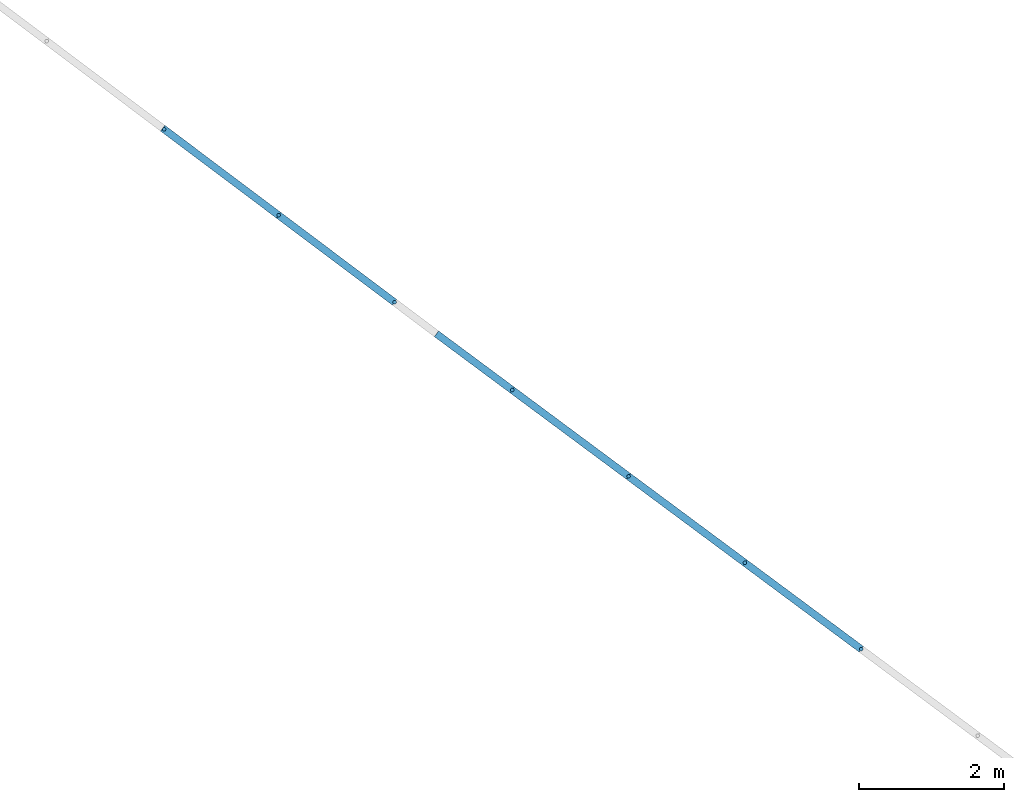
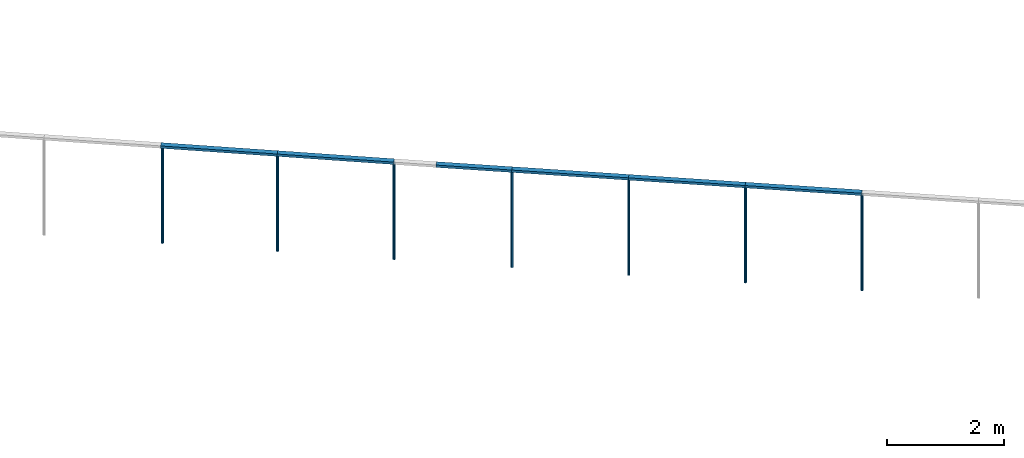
# One storey, part 7 of 12: 13 members, 2 elements without a shape of their own.
"""IFC2X3 building model written with IfcOpenShell, lengths in metres."""

from ifc_helpers import new_model, entity, si_unit, converted_unit, derived_unit, direction, frame, frame_2d, origin, origin_2d_with_axis, place, context, subcontext, project, spatial, rectangle, circle, extrude, clip, halfspace, source, transform, mapped, material, type_object, type_shapes, element, aggregate, save


model = new_model("IFC2X3")

# Units and contexts
model_context = context("Model", 3, precision=1e-05, world=origin(), true_north=direction((6.123031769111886e-17, 1.0)))
body_context = subcontext(model_context, "Body", "Model", "MODEL_VIEW")
ifc_project = project(units=[si_unit("LENGTHUNIT", "METRE"), si_unit("AREAUNIT", "SQUARE_METRE"), si_unit("VOLUMEUNIT", "CUBIC_METRE"), converted_unit("PLANEANGLEUNIT", "DEGREE", entity("IfcRatioMeasure", 0.017453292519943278), si_unit("PLANEANGLEUNIT", "RADIAN"), dimensions=[0, 0, 0, 0, 0, 0, 0]), si_unit("MASSUNIT", "GRAM", prefix="KILO"), derived_unit("MASSDENSITYUNIT", [(si_unit("MASSUNIT", "GRAM", prefix="KILO"), 1), (si_unit("LENGTHUNIT", "METRE"), -3)]), derived_unit("IONCONCENTRATIONUNIT", [(si_unit("MASSUNIT", "GRAM", prefix="KILO"), 1), (si_unit("LENGTHUNIT", "METRE"), -3)]), derived_unit("MOMENTOFINERTIAUNIT", [(si_unit("LENGTHUNIT", "METRE"), 4)]), si_unit("TIMEUNIT", "SECOND"), si_unit("FREQUENCYUNIT", "HERTZ"), si_unit("THERMODYNAMICTEMPERATUREUNIT", "DEGREE_CELSIUS"), derived_unit("THERMALTRANSMITTANCEUNIT", [(si_unit("MASSUNIT", "GRAM", prefix="KILO"), 1), (si_unit("THERMODYNAMICTEMPERATUREUNIT", "KELVIN"), -1), (si_unit("TIMEUNIT", "SECOND"), -3)]), derived_unit("THERMALCONDUCTANCEUNIT", [(si_unit("MASSUNIT", "GRAM", prefix="KILO"), 1), (si_unit("THERMODYNAMICTEMPERATUREUNIT", "KELVIN"), -1), (si_unit("TIMEUNIT", "SECOND"), -3), (si_unit("LENGTHUNIT", "METRE"), 1)]), derived_unit("VOLUMETRICFLOWRATEUNIT", [(si_unit("LENGTHUNIT", "METRE"), 3), (si_unit("TIMEUNIT", "SECOND"), -1)]), derived_unit("MASSFLOWRATEUNIT", [(si_unit("MASSUNIT", "GRAM", prefix="KILO"), 1), (si_unit("TIMEUNIT", "SECOND"), -1)]), derived_unit("ROTATIONALFREQUENCYUNIT", [(si_unit("TIMEUNIT", "SECOND"), -1)]), si_unit("ELECTRICCURRENTUNIT", "AMPERE"), si_unit("ELECTRICVOLTAGEUNIT", "VOLT"), si_unit("POWERUNIT", "WATT"), si_unit("FORCEUNIT", "NEWTON", prefix="KILO"), si_unit("ILLUMINANCEUNIT", "LUX"), si_unit("LUMINOUSFLUXUNIT", "LUMEN"), si_unit("LUMINOUSINTENSITYUNIT", "CANDELA"), derived_unit("USERDEFINED", [(si_unit("MASSUNIT", "GRAM", prefix="KILO"), -1), (si_unit("LENGTHUNIT", "METRE"), -2), (si_unit("TIMEUNIT", "SECOND"), 3), (si_unit("LUMINOUSFLUXUNIT", "LUMEN"), 1)]), derived_unit("USERDEFINED", [(si_unit("MASSUNIT", "GRAM", prefix="KILO"), 1), (si_unit("TIMEUNIT", "SECOND"), -3), (si_unit("LENGTHUNIT", "METRE"), 3), (si_unit("ELECTRICCURRENTUNIT", "AMPERE"), -2)]), derived_unit("SOUNDPOWERUNIT", [(si_unit("MASSUNIT", "GRAM", prefix="KILO"), 1), (si_unit("TIMEUNIT", "SECOND"), -3), (si_unit("LENGTHUNIT", "METRE"), 2)]), derived_unit("SOUNDPRESSUREUNIT", [(si_unit("MASSUNIT", "GRAM", prefix="KILO"), 1), (si_unit("LENGTHUNIT", "METRE"), -1), (si_unit("TIMEUNIT", "SECOND"), -2)]), derived_unit("LINEARVELOCITYUNIT", [(si_unit("LENGTHUNIT", "METRE"), 1), (si_unit("TIMEUNIT", "SECOND"), -1)]), si_unit("PRESSUREUNIT", "PASCAL"), derived_unit("USERDEFINED", [(si_unit("MASSUNIT", "GRAM", prefix="KILO"), 1), (si_unit("LENGTHUNIT", "METRE"), -2), (si_unit("TIMEUNIT", "SECOND"), -2)]), derived_unit("LINEARFORCEUNIT", [(si_unit("MASSUNIT", "GRAM", prefix="KILO"), 1), (si_unit("TIMEUNIT", "SECOND"), -2)]), derived_unit("PLANARFORCEUNIT", [(si_unit("MASSUNIT", "GRAM", prefix="KILO"), 1), (si_unit("LENGTHUNIT", "METRE"), -1), (si_unit("TIMEUNIT", "SECOND"), -2)]), derived_unit("SPECIFICHEATCAPACITYUNIT", [(si_unit("THERMODYNAMICTEMPERATUREUNIT", "KELVIN"), -1), (si_unit("LENGTHUNIT", "METRE"), 2), (si_unit("TIMEUNIT", "SECOND"), -2)]), derived_unit("HEATINGVALUEUNIT", [(si_unit("LENGTHUNIT", "METRE"), 2), (si_unit("TIMEUNIT", "SECOND"), -2)]), derived_unit("VAPORPERMEABILITYUNIT", [(si_unit("LENGTHUNIT", "METRE"), -1), (si_unit("TIMEUNIT", "SECOND"), 1)]), derived_unit("DYNAMICVISCOSITYUNIT", [(si_unit("MASSUNIT", "GRAM", prefix="KILO"), 1), (si_unit("TIMEUNIT", "SECOND"), -1), (si_unit("LENGTHUNIT", "METRE"), -1)]), derived_unit("THERMALEXPANSIONCOEFFICIENTUNIT", [(si_unit("THERMODYNAMICTEMPERATUREUNIT", "KELVIN"), -1)]), derived_unit("MODULUSOFELASTICITYUNIT", [(si_unit("MASSUNIT", "GRAM", prefix="KILO"), 1), (si_unit("LENGTHUNIT", "METRE"), -1), (si_unit("TIMEUNIT", "SECOND"), -2)]), derived_unit("ISOTHERMALMOISTURECAPACITYUNIT", [(si_unit("LENGTHUNIT", "METRE"), 3), (si_unit("MASSUNIT", "GRAM", prefix="KILO"), -1)]), derived_unit("MOISTUREDIFFUSIVITYUNIT", [(si_unit("TIMEUNIT", "SECOND"), -1), (si_unit("LENGTHUNIT", "METRE"), 2)])], contexts=[model_context])

# Site, building, storey
site_placement = place(None, origin())
site = spatial("IfcSite", under=ifc_project, at=site_placement, Name="Superficie", CompositionType="ELEMENT")
building_placement = place(site_placement, frame((0.0, 0.0, 235.0), z_axis=(0.0, 0.0, 1.0), x_axis=(-0.7996477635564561, 0.6004693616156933, 0.0)))
building = spatial("IfcBuilding", under=site, at=building_placement, CompositionType="ELEMENT")
storey_placement = place(building_placement, frame((0.0, 0.0, -4.459999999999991)))
storey = spatial("IfcBuildingStorey", under=building, at=storey_placement, Name="PS1- Vestuari", CompositionType="ELEMENT", Elevation=-4.459999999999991)

# Curtain wall, members
curtain_wall_type = type_object("IfcCurtainWallType", Name="Muro cortina:SER EXT- Tanca exterior", PredefinedType="NOTDEFINED")
curtain_wall_1_placement = place(storey_placement, frame((0.0, 0.0, 4.459999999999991)))
curtain_wall_1 = element("IfcCurtainWall", 1, at=curtain_wall_1_placement, inside=storey, type_object=curtain_wall_type, Name="Muro cortina:SER EXT- Tanca exterior", ObjectType="Muro cortina:SER EXT- Tanca exterior")
ifc_material_1 = material(Name="Acero inoxidable")
member_type_1 = type_object("IfcMemberType", Name="Montante circular:Perfil Tanca exterior", PredefinedType="MULLION", material=ifc_material_1)
shared_shape_1 = source(origin(), body_context, "Body", "SweptSolid", [
    extrude(circle(Radius=0.025, at=frame_2d((-2.1149748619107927e-18, -4.0388614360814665e-17), x_axis=(1.0, 0.0))), frame((0.0, 0.0, -2.0), z_axis=(0.0, 0.0, 1.0), x_axis=(-1.0, 0.0, 0.0)), (0.0, 0.0, 1.0), 1.9999999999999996),
])
type_shapes(member_type_1, [shared_shape_1])
member_1_placement = place(curtain_wall_1_placement, frame((37.9030104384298, -66.56654381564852, -5.509999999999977), z_axis=(0.0, 0.0, -1.0), x_axis=(-0.9999853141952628, -0.005419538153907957, 0.0)))
member_1 = element("IfcMember", 2, at=member_1_placement, type_object=member_type_1, material=ifc_material_1, Name="Montante circular:Perfil Tanca exterior", ObjectType="Montante circular:Perfil Tanca exterior", context=body_context, shape_type="MappedRepresentation", body=[
    mapped(shared_shape_1, transform((0.0, 0.0, 0.0), scale=1.0)),
])
member_2_placement = place(curtain_wall_1_placement, frame((35.903039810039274, -66.57738289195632, -5.509999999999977), z_axis=(0.0, 0.0, -1.0), x_axis=(-0.9999853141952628, -0.005419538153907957, 0.0)))
member_2 = element("IfcMember", 3, at=member_2_placement, type_object=member_type_1, material=ifc_material_1, Name="Montante circular:Perfil Tanca exterior", ObjectType="Montante circular:Perfil Tanca exterior", context=body_context, shape_type="MappedRepresentation", body=[
    mapped(shared_shape_1, transform((0.0, 0.0, 0.0), scale=1.0)),
])
member_3_placement = place(curtain_wall_1_placement, frame((33.90306918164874, -66.58822196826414, -5.509999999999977), z_axis=(0.0, 0.0, -1.0), x_axis=(-0.9999853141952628, -0.005419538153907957, 0.0)))
member_3 = element("IfcMember", 4, at=member_3_placement, type_object=member_type_1, material=ifc_material_1, Name="Montante circular:Perfil Tanca exterior", ObjectType="Montante circular:Perfil Tanca exterior", context=body_context, shape_type="MappedRepresentation", body=[
    mapped(shared_shape_1, transform((0.0, 0.0, 0.0), scale=1.0)),
])
member_4_placement = place(curtain_wall_1_placement, frame((31.90309855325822, -66.59906104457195, -5.509999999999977), z_axis=(0.0, 0.0, -1.0), x_axis=(-0.9999853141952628, -0.005419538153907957, 0.0)))
member_4 = element("IfcMember", 5, at=member_4_placement, type_object=member_type_1, material=ifc_material_1, Name="Montante circular:Perfil Tanca exterior", ObjectType="Montante circular:Perfil Tanca exterior", context=body_context, shape_type="MappedRepresentation", body=[
    mapped(shared_shape_1, transform((0.0, 0.0, 0.0), scale=1.0)),
])

curtain_wall_2_placement = place(storey_placement, frame((0.0, 0.0, 4.459999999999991)))
curtain_wall_2 = element("IfcCurtainWall", 6, at=curtain_wall_2_placement, inside=storey, type_object=curtain_wall_type, Name="Muro cortina:SER EXT- Tanca exterior", ObjectType="Muro cortina:SER EXT- Tanca exterior")
member_5_placement = place(curtain_wall_2_placement, frame((41.92766201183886, -66.5594984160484, -5.509999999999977), z_axis=(0.0, 0.0, -1.0), x_axis=(-1.0, 0.0, 0.0)))
member_5 = element("IfcMember", 7, at=member_5_placement, type_object=member_type_1, material=ifc_material_1, Name="Montante circular:Perfil Tanca exterior", ObjectType="Montante circular:Perfil Tanca exterior", context=body_context, shape_type="MappedRepresentation", body=[
    mapped(shared_shape_1, transform((0.0, 0.0, 0.0), scale=1.0)),
])
member_6_placement = place(curtain_wall_2_placement, frame((39.92766201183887, -66.5594984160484, -5.509999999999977), z_axis=(0.0, 0.0, -1.0), x_axis=(-1.0, 0.0, 0.0)))
member_6 = element("IfcMember", 8, at=member_6_placement, type_object=member_type_1, material=ifc_material_1, Name="Montante circular:Perfil Tanca exterior", ObjectType="Montante circular:Perfil Tanca exterior", context=body_context, shape_type="MappedRepresentation", body=[
    mapped(shared_shape_1, transform((0.0, 0.0, 0.0), scale=1.0)),
])
member_type_2 = type_object("IfcMemberType", Name="Montante circular:Perfil Tanca exterior", PredefinedType="MULLION", material=ifc_material_1)
shared_shape_2 = source(origin(), body_context, "Body", "SweptSolid", [
    extrude(circle(Radius=0.025, at=frame_2d((-1.304992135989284e-31, 4.038861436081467e-17), x_axis=(1.0, 0.0))), frame((-0.025, 0.0, -2.0)), (0.0, 0.0, 1.0), 1.9999999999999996),
])
type_shapes(member_type_2, [shared_shape_2])
member_7_placement = place(curtain_wall_2_placement, frame((43.92766201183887, -66.55949841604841, -3.5099999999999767)))
member_7 = element("IfcMember", 9, at=member_7_placement, type_object=member_type_2, material=ifc_material_1, Name="Montante circular:Perfil Tanca exterior", ObjectType="Montante circular:Perfil Tanca exterior", context=body_context, shape_type="MappedRepresentation", body=[
    mapped(shared_shape_2, transform((0.0, 0.0, 0.0), scale=1.0)),
])

# Member
ifc_material_2 = material(Name="_Formigó- Solera- T1- STR")
member_type_3 = type_object("IfcMemberType", Name="Montante rectangular:Montante rectangular 100x50", PredefinedType="MULLION", material=ifc_material_2)
shared_shape_3 = source(origin(), body_context, "Body", "SweptSolid", [
    extrude(rectangle(XDim=0.1, YDim=0.05000000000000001, at=origin_2d_with_axis()), frame((-0.025000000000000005, 0.0, -2.0), z_axis=(0.0, 0.0, 1.0), x_axis=(0.0, -1.0, 0.0)), (0.0, 0.0, 1.0), 2.0000000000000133),
])
type_shapes(member_type_3, [shared_shape_3])
member_8_placement = place(curtain_wall_1_placement, frame((35.903039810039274, -66.57738289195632, -3.459999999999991), z_axis=(-0.9999853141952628, -0.005419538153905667, 0.0), x_axis=(0.0, 0.0, 1.0)))
member_8 = element("IfcMember", 10, at=member_8_placement, type_object=member_type_3, material=ifc_material_2, Name="Montante rectangular:Montante rectangular 100x50", ObjectType="Montante rectangular:Montante rectangular 100x50", context=body_context, shape_type="MappedRepresentation", body=[
    mapped(shared_shape_3, transform((0.0, 0.0, 0.0), scale=1.0)),
])

member_9_placement = place(curtain_wall_1_placement, frame((33.90306918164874, -66.58822196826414, -3.459999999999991), z_axis=(-0.9999853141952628, -0.005419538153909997, 0.0), x_axis=(0.0, 0.0, 1.0)))
member_9 = element("IfcMember", 11, at=member_9_placement, type_object=member_type_3, material=ifc_material_2, Name="Montante rectangular:Montante rectangular 100x50", ObjectType="Montante rectangular:Montante rectangular 100x50", context=body_context, shape_type="MappedRepresentation", body=[
    mapped(shared_shape_3, transform((0.0, 0.0, 0.0), scale=1.0)),
])

member_10_placement = place(curtain_wall_1_placement, frame((31.90309855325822, -66.59906104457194, -3.459999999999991), z_axis=(-0.9999853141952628, -0.0054195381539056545, 0.0), x_axis=(0.0, 0.0, 1.0)))
member_10 = element("IfcMember", 12, at=member_10_placement, type_object=member_type_3, material=ifc_material_2, Name="Montante rectangular:Montante rectangular 100x50", ObjectType="Montante rectangular:Montante rectangular 100x50", context=body_context, shape_type="MappedRepresentation", body=[
    mapped(shared_shape_3, transform((0.0, 0.0, 0.0), scale=1.0)),
])

member_11_placement = place(curtain_wall_2_placement, frame((39.92766201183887, -66.5594984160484, -3.459999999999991), z_axis=(-1.0, 0.0, 0.0), x_axis=(0.0, 0.0, 1.0)))
member_11 = element("IfcMember", 13, at=member_11_placement, type_object=member_type_3, material=ifc_material_2, Name="Montante rectangular:Montante rectangular 100x50", ObjectType="Montante rectangular:Montante rectangular 100x50", context=body_context, shape_type="MappedRepresentation", body=[
    mapped(shared_shape_3, transform((0.0, 0.0, 0.0), scale=1.0)),
])

member_type_4 = type_object("IfcMemberType", Name="Montante rectangular:Montante rectangular 100x50", PredefinedType="MULLION", material=ifc_material_2)
shared_shape_4 = source(origin(), body_context, "Body", "SweptSolid", [
    clip(extrude(rectangle(XDim=0.1, YDim=0.05000000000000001, at=origin_2d_with_axis()), frame((-0.025000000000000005, 0.0, -1.3001354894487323), z_axis=(0.0, 0.0, 1.0), x_axis=(0.0, -1.0, 0.0)), (0.0, 0.0, 1.0), 1.3001354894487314), halfspace(frame((0.3048, 0.0, -1.3), z_axis=(0.0, -0.002709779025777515, -0.999996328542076), x_axis=(0.0, -0.999996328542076, 0.002709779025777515)), False)),
])
type_shapes(member_type_4, [shared_shape_4])
member_12_placement = place(curtain_wall_1_placement, frame((37.9030104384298, -66.56654381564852, -3.459999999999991), z_axis=(-0.9999853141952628, -0.005419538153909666, 0.0), x_axis=(0.0, 0.0, 1.0)))
member_12 = element("IfcMember", 14, at=member_12_placement, type_object=member_type_4, material=ifc_material_2, Name="Montante rectangular:Montante rectangular 100x50", ObjectType="Montante rectangular:Montante rectangular 100x50", context=body_context, shape_type="MappedRepresentation", body=[
    mapped(shared_shape_4, transform((0.0, 0.0, 0.0), scale=1.0)),
])

aggregate(curtain_wall_1, [member_1, member_2, member_3, member_4, member_12, member_8, member_9, member_10])

member_type_5 = type_object("IfcMemberType", Name="Montante rectangular:Montante rectangular 100x50", PredefinedType="MULLION", material=ifc_material_2)
shared_shape_5 = source(origin(), body_context, "Body", "SweptSolid", [
    extrude(rectangle(XDim=0.1, YDim=0.05000000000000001, at=origin_2d_with_axis()), frame((-0.025000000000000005, 0.0, -2.0), z_axis=(0.0, 0.0, 1.0), x_axis=(0.0, -1.0, 0.0)), (0.0, 0.0, 1.0), 2.000000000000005),
])
type_shapes(member_type_5, [shared_shape_5])
member_13_placement = place(curtain_wall_2_placement, frame((41.92766201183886, -66.5594984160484, -3.459999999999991), z_axis=(-1.0, 0.0, 0.0), x_axis=(0.0, 0.0, 1.0)))
member_13 = element("IfcMember", 15, at=member_13_placement, type_object=member_type_5, material=ifc_material_2, Name="Montante rectangular:Montante rectangular 100x50", ObjectType="Montante rectangular:Montante rectangular 100x50", context=body_context, shape_type="MappedRepresentation", body=[
    mapped(shared_shape_5, transform((0.0, 0.0, 0.0), scale=1.0)),
])

aggregate(curtain_wall_2, [member_7, member_5, member_6, member_13, member_11])

save(model, "model.ifc")
